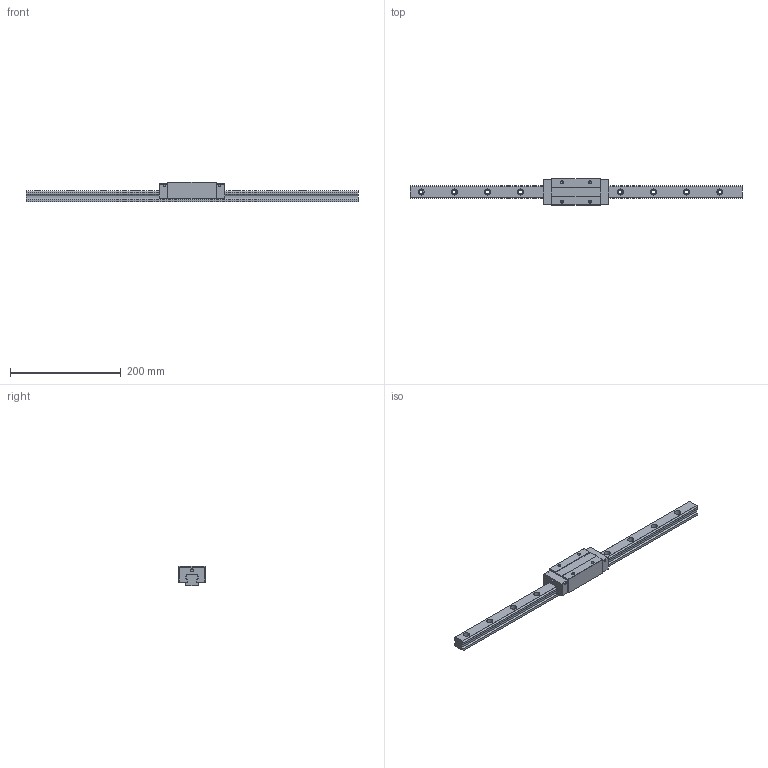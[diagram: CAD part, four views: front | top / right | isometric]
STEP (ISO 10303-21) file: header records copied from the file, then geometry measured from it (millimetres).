
FILE_DESCRIPTION (( 'STEP AP203' ), '1' );
FILE_NAME ('TRC25VE-ZN.STEP', '2024-06-13T01:29:20', ( '' ), ( '' ), 'SwSTEP 2.0', 'SolidWorks 2022', '' );
FILE_SCHEMA (( 'CONFIG_CONTROL_DESIGN' ));
Length unit declared in the file: millimetre
Products named in the file (1): TRC25VE-ZN
Bounding box: 600 x 48 x 36 mm (x, y, z)
Volume: 363260.5 mm3; surface area: 83967.4 mm2
Topology: 2 solids, 2 shells, 200 faces, 520 edges, 336 vertices
Faces by surface type: cylinder 96, plane 88, cone 16
Entity records: 6223 total; most frequent: DIRECTION 1114, CARTESIAN_POINT 1049, ORIENTED_EDGE 1024, EDGE_CURVE 512, AXIS2_PLACEMENT_3D 401, VERTEX_POINT 336, VECTOR 312, LINE 312
